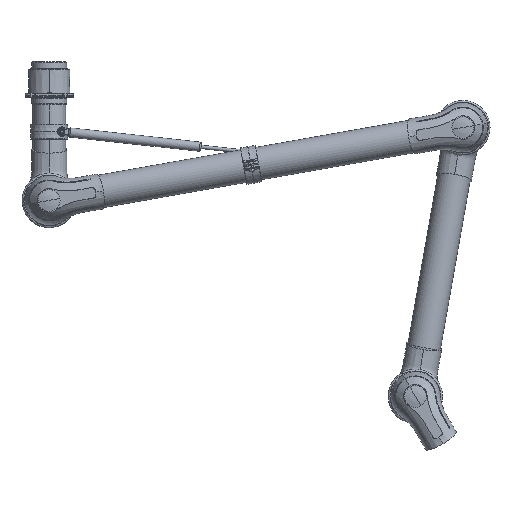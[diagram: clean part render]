
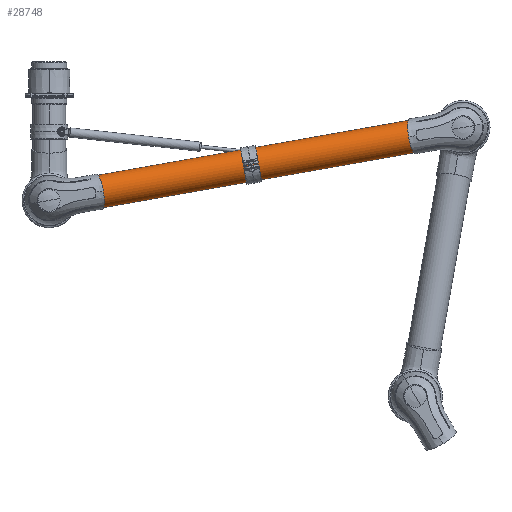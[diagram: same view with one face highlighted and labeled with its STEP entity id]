
A CAD part, top view. The second image highlights one B-rep face of the part: STEP entity #28748.
In plain terms, the highlighted cylindrical face has radius 39 mm (diameter 78 mm), a partial arc.
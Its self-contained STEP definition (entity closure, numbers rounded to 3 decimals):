
#28661=CARTESIAN_POINT('',(0.,0.,0.));
#28662=DIRECTION('',(1.,0.,0.));
#28663=DIRECTION('',(0.,1.,0.));
#28664=AXIS2_PLACEMENT_3D('',#28661,#28662,#28663);
#28669=DIRECTION('',(-1.,0.,0.));
#28670=VECTOR('',#28669,860.);
#28671=CARTESIAN_POINT('',(0.,39.,0.));
#28672=LINE('',#28671,#28670);
#28676=DIRECTION('',(-1.,0.,0.));
#28677=VECTOR('',#28676,860.);
#28678=CARTESIAN_POINT('',(0.,-39.,0.));
#28679=LINE('',#28678,#28677);
#28699=CARTESIAN_POINT('',(-860.,0.,0.));
#28700=DIRECTION('',(1.,0.,0.));
#28701=DIRECTION('',(0.,1.,0.));
#28702=AXIS2_PLACEMENT_3D('',#28699,#28700,#28701);
#28707=CARTESIAN_POINT('',(0.,39.,0.));
#28708=CARTESIAN_POINT('',(-860.,39.,0.));
#28709=VERTEX_POINT('',#28707);
#28710=VERTEX_POINT('',#28708);
#28711=CARTESIAN_POINT('',(0.,-39.,0.));
#28712=CARTESIAN_POINT('',(-860.,-39.,0.));
#28713=VERTEX_POINT('',#28711);
#28714=VERTEX_POINT('',#28712);
#28734=CARTESIAN_POINT('',(-903.,0.,0.));
#28735=DIRECTION('',(1.,0.,0.));
#28736=DIRECTION('',(0.,-1.,0.));
#28737=AXIS2_PLACEMENT_3D('',#28734,#28735,#28736);
#28738=CYLINDRICAL_SURFACE('',#28737,39.);
#28740=ORIENTED_EDGE('',*,*,#28739,.F.);
#28741=ORIENTED_EDGE('',*,*,#28720,.T.);
#28743=ORIENTED_EDGE('',*,*,#28742,.T.);
#28745=ORIENTED_EDGE('',*,*,#28744,.F.);
#28746=EDGE_LOOP('',(#28740,#28741,#28743,#28745));
#28747=FACE_OUTER_BOUND('',#28746,.F.);
#28665=CIRCLE('',#28664,39.);
#28703=CIRCLE('',#28702,39.);
#28720=EDGE_CURVE('',#28709,#28713,#28665,.T.);
#28739=EDGE_CURVE('',#28709,#28710,#28672,.T.);
#28742=EDGE_CURVE('',#28713,#28714,#28679,.T.);
#28744=EDGE_CURVE('',#28710,#28714,#28703,.T.);
#28748=ADVANCED_FACE('',(#28747),#28738,.T.);
